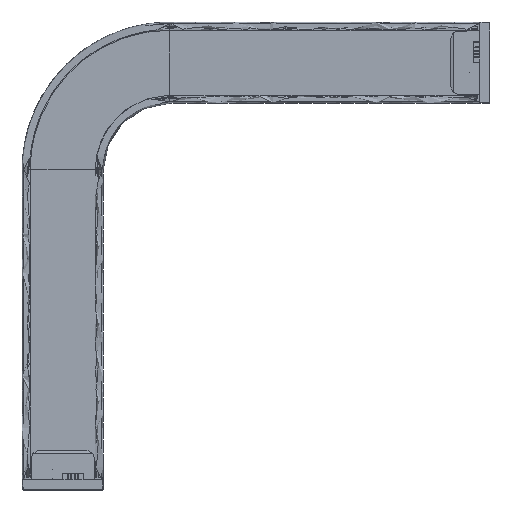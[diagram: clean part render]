
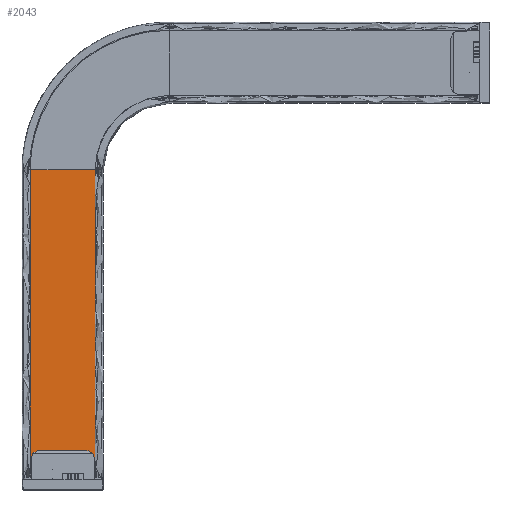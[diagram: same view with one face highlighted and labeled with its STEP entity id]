
A CAD part, top view. The second image highlights one B-rep face of the part: STEP entity #2043.
In plain terms, the highlighted free-form (B-spline) face has degree [1, 3] with [2, 4] control points.
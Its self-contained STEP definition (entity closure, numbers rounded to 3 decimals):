
#2043=ADVANCED_FACE('',(#3965),#69077,.T.);
#3965=FACE_OUTER_BOUND('',#5973,.T.);
#5973=EDGE_LOOP('',(#16374,#16375,#16376,#16377));
#16374=ORIENTED_EDGE('',*,*,#49205,.T.);
#16375=ORIENTED_EDGE('',*,*,#49206,.T.);
#16376=ORIENTED_EDGE('',*,*,#49196,.F.);
#16377=ORIENTED_EDGE('',*,*,#49203,.F.);
#28089=PCURVE('',#69073,#38601);
#28099=PCURVE('',#69076,#38611);
#28102=PCURVE('',#69077,#38614);
#28103=PCURVE('',#69077,#38615);
#28104=PCURVE('',#69077,#38616);
#28105=PCURVE('',#69077,#38617);
#28109=PCURVE('',#69078,#38621);
#28116=PCURVE('',#69080,#38628);
#38601=DEFINITIONAL_REPRESENTATION('',(#63588),#168533);
#38611=DEFINITIONAL_REPRESENTATION('',(#63605),#168533);
#38614=DEFINITIONAL_REPRESENTATION('',(#63610),#168533);
#38615=DEFINITIONAL_REPRESENTATION('',(#63612),#168533);
#38616=DEFINITIONAL_REPRESENTATION('',(#63613),#168533);
#38617=DEFINITIONAL_REPRESENTATION('',(#63614),#168533);
#38621=DEFINITIONAL_REPRESENTATION('',(#63620),#168533);
#38628=DEFINITIONAL_REPRESENTATION('',(#63628),#168533);
#43940=SURFACE_CURVE('',#63587,(#28089,#28104),.PCURVE_S1.);
#43947=SURFACE_CURVE('',#63604,(#28099,#28105),.PCURVE_S1.);
#43949=SURFACE_CURVE('',#63609,(#28102,#28116),.PCURVE_S1.);
#43950=SURFACE_CURVE('',#63611,(#28103,#28109),.PCURVE_S1.);
#49196=EDGE_CURVE('',#67144,#67147,#43940,.T.);
#49203=EDGE_CURVE('',#67153,#67144,#43947,.T.);
#49205=EDGE_CURVE('',#67153,#67154,#43949,.T.);
#49206=EDGE_CURVE('',#67154,#67147,#43950,.T.);
#63587=B_SPLINE_CURVE_WITH_KNOTS('',1,(#167359,#167360),.UNSPECIFIED.,.F.,
 .F.,(2,2),(0.,51.),.UNSPECIFIED.);
#63588=B_SPLINE_CURVE_WITH_KNOTS('',1,(#167361,#167362),.UNSPECIFIED.,.F.,
 .F.,(2,2),(0.,51.),.UNSPECIFIED.);
#63604=B_SPLINE_CURVE_WITH_KNOTS('',3,(#167412,#167413,#167414,#167415),
 .UNSPECIFIED.,.F.,.F.,(4,4),(8.,210.),.UNSPECIFIED.);
#63605=B_SPLINE_CURVE_WITH_KNOTS('',1,(#167416,#167417),.UNSPECIFIED.,.F.,
 .F.,(2,2),(8.,210.),.UNSPECIFIED.);
#63609=B_SPLINE_CURVE_WITH_KNOTS('',1,(#167426,#167427),.UNSPECIFIED.,.F.,
 .F.,(2,2),(0.,51.),.UNSPECIFIED.);
#63610=B_SPLINE_CURVE_WITH_KNOTS('',1,(#167428,#167429),.UNSPECIFIED.,.F.,
 .F.,(2,2),(0.,51.),.UNSPECIFIED.);
#63611=B_SPLINE_CURVE_WITH_KNOTS('',3,(#167430,#167431,#167432,#167433),
 .UNSPECIFIED.,.F.,.F.,(4,4),(8.,210.),.UNSPECIFIED.);
#63612=B_SPLINE_CURVE_WITH_KNOTS('',1,(#167434,#167435),.UNSPECIFIED.,.F.,
 .F.,(2,2),(8.,210.),.UNSPECIFIED.);
#63613=B_SPLINE_CURVE_WITH_KNOTS('',1,(#167436,#167437),.UNSPECIFIED.,.F.,
 .F.,(2,2),(0.,51.),.UNSPECIFIED.);
#63614=B_SPLINE_CURVE_WITH_KNOTS('',1,(#167438,#167439),.UNSPECIFIED.,.F.,
 .F.,(2,2),(8.,210.),.UNSPECIFIED.);
#63620=B_SPLINE_CURVE_WITH_KNOTS('',1,(#167452,#167453),.UNSPECIFIED.,.F.,
 .F.,(2,2),(8.,210.),.UNSPECIFIED.);
#63628=B_SPLINE_CURVE_WITH_KNOTS('',1,(#167468,#167469),.UNSPECIFIED.,.F.,
 .F.,(2,2),(0.,51.),.UNSPECIFIED.);
#67144=VERTEX_POINT('',#167266);
#67147=VERTEX_POINT('',#167269);
#67153=VERTEX_POINT('',#167275);
#67154=VERTEX_POINT('',#167276);
#69073=B_SPLINE_SURFACE_WITH_KNOTS('',1,3,((#167080,#167081,#167082,#167083,
#167084,#167085,#167086,#167087,#167088,#167089,#167090,#167091,#167092,
#167093,#167094,#167095,#167096,#167097,#167098),(#167099,#167100,#167101,
#167102,#167103,#167104,#167105,#167106,#167107,#167108,#167109,#167110,
#167111,#167112,#167113,#167114,#167115,#167116,#167117)),.UNSPECIFIED.,
 .F.,.F.,.F.,(2,2),(4,1,1,1,1,1,1,1,1,1,1,1,1,1,1,1,4),(0.,51.),(0.,8.998,
18.298,27.875,37.696,47.72,57.903,
68.194,78.54,88.886,99.177,109.359,
119.384,129.204,138.781,148.082,157.079),
 .UNSPECIFIED.);
#69076=B_SPLINE_SURFACE_WITH_KNOTS('',1,3,((#167194,#167195,#167196,#167197),
(#167198,#167199,#167200,#167201)),.UNSPECIFIED.,.F.,.F.,.F.,(2,2),(4,4),
(103.2,104.4),(0.,210.),.UNSPECIFIED.);
#69077=B_SPLINE_SURFACE_WITH_KNOTS('',1,3,((#167202,#167203,#167204,#167205),
(#167206,#167207,#167208,#167209)),.UNSPECIFIED.,.F.,.F.,.F.,(2,2),(4,4),
(0.,51.),(0.,210.),.UNSPECIFIED.);
#69078=B_SPLINE_SURFACE_WITH_KNOTS('',1,3,((#167210,#167211,#167212,#167213),
(#167214,#167215,#167216,#167217)),.UNSPECIFIED.,.F.,.F.,.F.,(2,2),(4,4),
(51.,52.2),(0.,210.),.UNSPECIFIED.);
#69080=B_SPLINE_SURFACE_WITH_KNOTS('',1,1,((#167226,#167227),(#167228,#167229)),
 .UNSPECIFIED.,.F.,.F.,.F.,(2,2),(2,2),(0.,49.),(0.,47.786),
 .UNSPECIFIED.);
#167080=CARTESIAN_POINT('',(-23.,210.,62.937));
#167081=CARTESIAN_POINT('',(-23.,212.864,62.937));
#167082=CARTESIAN_POINT('',(-22.738,218.689,62.937));
#167083=CARTESIAN_POINT('',(-21.529,227.49,62.937));
#167084=CARTESIAN_POINT('',(-19.436,236.393,62.937));
#167085=CARTESIAN_POINT('',(-16.417,245.271,62.937));
#167086=CARTESIAN_POINT('',(-12.452,253.982,62.937));
#167087=CARTESIAN_POINT('',(-7.554,262.379,62.937));
#167088=CARTESIAN_POINT('',(-1.762,270.314,62.937));
#167089=CARTESIAN_POINT('',(4.851,277.649,62.937));
#167090=CARTESIAN_POINT('',(12.186,284.262,62.937));
#167091=CARTESIAN_POINT('',(20.121,290.054,62.937));
#167092=CARTESIAN_POINT('',(28.518,294.952,62.937));
#167093=CARTESIAN_POINT('',(37.229,298.917,62.937));
#167094=CARTESIAN_POINT('',(46.107,301.936,62.937));
#167095=CARTESIAN_POINT('',(55.01,304.029,62.937));
#167096=CARTESIAN_POINT('',(63.811,305.238,62.937));
#167097=CARTESIAN_POINT('',(69.636,305.5,62.937));
#167098=CARTESIAN_POINT('',(72.5,305.5,62.937));
#167099=CARTESIAN_POINT('',(23.,210.,62.937));
#167100=CARTESIAN_POINT('',(23.,211.484,62.937));
#167101=CARTESIAN_POINT('',(23.136,214.504,62.937));
#167102=CARTESIAN_POINT('',(23.762,219.065,62.937));
#167103=CARTESIAN_POINT('',(24.847,223.68,62.937));
#167104=CARTESIAN_POINT('',(26.412,228.282,62.937));
#167105=CARTESIAN_POINT('',(28.467,232.797,62.937));
#167106=CARTESIAN_POINT('',(31.006,237.149,62.937));
#167107=CARTESIAN_POINT('',(34.008,241.262,62.937));
#167108=CARTESIAN_POINT('',(37.436,245.064,62.937));
#167109=CARTESIAN_POINT('',(41.238,248.492,62.937));
#167110=CARTESIAN_POINT('',(45.351,251.494,62.937));
#167111=CARTESIAN_POINT('',(49.703,254.033,62.937));
#167112=CARTESIAN_POINT('',(54.218,256.088,62.937));
#167113=CARTESIAN_POINT('',(58.82,257.653,62.937));
#167114=CARTESIAN_POINT('',(63.435,258.738,62.937));
#167115=CARTESIAN_POINT('',(67.996,259.364,62.937));
#167116=CARTESIAN_POINT('',(71.015,259.5,62.937));
#167117=CARTESIAN_POINT('',(72.5,259.5,62.937));
#167194=CARTESIAN_POINT('',(-23.,0.,61.937));
#167195=CARTESIAN_POINT('',(-23.,70.,61.937));
#167196=CARTESIAN_POINT('',(-23.,140.,61.937));
#167197=CARTESIAN_POINT('',(-23.,210.,61.937));
#167198=CARTESIAN_POINT('',(-23.,0.,62.937));
#167199=CARTESIAN_POINT('',(-23.,70.,62.937));
#167200=CARTESIAN_POINT('',(-23.,140.,62.937));
#167201=CARTESIAN_POINT('',(-23.,210.,62.937));
#167202=CARTESIAN_POINT('',(-23.,0.,62.937));
#167203=CARTESIAN_POINT('',(-23.,70.,62.937));
#167204=CARTESIAN_POINT('',(-23.,140.,62.937));
#167205=CARTESIAN_POINT('',(-23.,210.,62.937));
#167206=CARTESIAN_POINT('',(23.,0.,62.937));
#167207=CARTESIAN_POINT('',(23.,70.,62.937));
#167208=CARTESIAN_POINT('',(23.,140.,62.937));
#167209=CARTESIAN_POINT('',(23.,210.,62.937));
#167210=CARTESIAN_POINT('',(23.,0.,62.937));
#167211=CARTESIAN_POINT('',(23.,70.,62.937));
#167212=CARTESIAN_POINT('',(23.,140.,62.937));
#167213=CARTESIAN_POINT('',(23.,210.,62.937));
#167214=CARTESIAN_POINT('',(23.,0.,61.937));
#167215=CARTESIAN_POINT('',(23.,70.,61.937));
#167216=CARTESIAN_POINT('',(23.,140.,61.937));
#167217=CARTESIAN_POINT('',(23.,210.,61.937));
#167226=CARTESIAN_POINT('',(-24.5,8.,19.578));
#167227=CARTESIAN_POINT('',(-24.5,8.,67.363));
#167228=CARTESIAN_POINT('',(24.5,8.,19.578));
#167229=CARTESIAN_POINT('',(24.5,8.,67.363));
#167266=CARTESIAN_POINT('',(-23.,210.,62.937));
#167269=CARTESIAN_POINT('',(23.,210.,62.937));
#167275=CARTESIAN_POINT('',(-23.,8.,62.937));
#167276=CARTESIAN_POINT('',(23.,8.,62.937));
#167359=CARTESIAN_POINT('',(-23.,210.,62.937));
#167360=CARTESIAN_POINT('',(23.,210.,62.937));
#167361=CARTESIAN_POINT('',(0.,0.));
#167362=CARTESIAN_POINT('',(51.,0.));
#167412=CARTESIAN_POINT('',(-23.,8.,62.937));
#167413=CARTESIAN_POINT('',(-23.,75.333,62.937));
#167414=CARTESIAN_POINT('',(-23.,142.667,62.937));
#167415=CARTESIAN_POINT('',(-23.,210.,62.937));
#167416=CARTESIAN_POINT('',(104.4,8.));
#167417=CARTESIAN_POINT('',(104.4,210.));
#167426=CARTESIAN_POINT('',(-23.,8.,62.937));
#167427=CARTESIAN_POINT('',(23.,8.,62.937));
#167428=CARTESIAN_POINT('',(0.,8.));
#167429=CARTESIAN_POINT('',(51.,8.));
#167430=CARTESIAN_POINT('',(23.,8.,62.937));
#167431=CARTESIAN_POINT('',(23.,75.333,62.937));
#167432=CARTESIAN_POINT('',(23.,142.667,62.937));
#167433=CARTESIAN_POINT('',(23.,210.,62.937));
#167434=CARTESIAN_POINT('',(51.,8.));
#167435=CARTESIAN_POINT('',(51.,210.));
#167436=CARTESIAN_POINT('',(0.,210.));
#167437=CARTESIAN_POINT('',(51.,210.));
#167438=CARTESIAN_POINT('',(0.,8.));
#167439=CARTESIAN_POINT('',(0.,210.));
#167452=CARTESIAN_POINT('',(51.,8.));
#167453=CARTESIAN_POINT('',(51.,210.));
#167468=CARTESIAN_POINT('',(1.5,43.359));
#167469=CARTESIAN_POINT('',(47.5,43.359));
#168533=(
GEOMETRIC_REPRESENTATION_CONTEXT(2)
PARAMETRIC_REPRESENTATION_CONTEXT()
REPRESENTATION_CONTEXT('pspace','')
);
